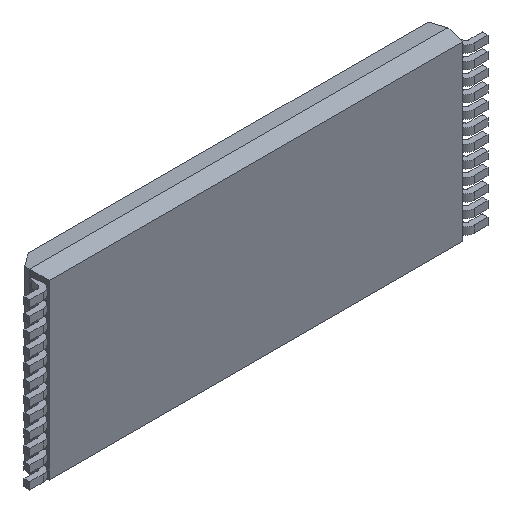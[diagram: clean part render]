
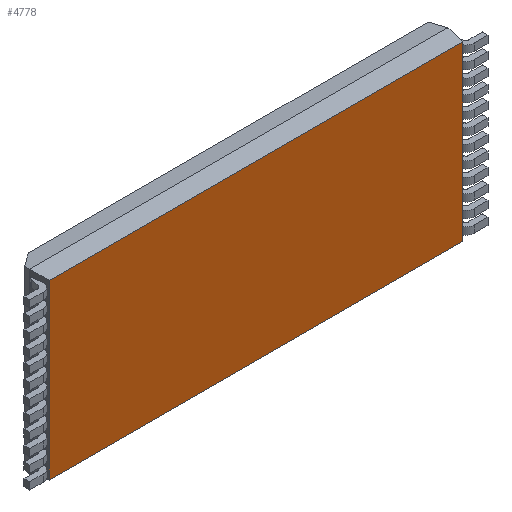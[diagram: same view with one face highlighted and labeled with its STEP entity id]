
A CAD part, isometric view. The second image highlights one B-rep face of the part: STEP entity #4778.
In plain terms, the highlighted planar face has unit normal (0, -1, 0).
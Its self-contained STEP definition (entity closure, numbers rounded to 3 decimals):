
#3483 = DIRECTION ( 'NONE',  ( 0., 0., 1. ) ) ;
#3484 = VECTOR ( 'NONE', #3483, 1000. ) ;
#3485 = CARTESIAN_POINT ( 'NONE',  ( -7.216, 0.1, -3.1 ) ) ;
#3486 = LINE ( 'NONE', #3485, #3484 ) ;
#3487 = CARTESIAN_POINT ( 'NONE',  ( -7.216, 0.1, 3.016 ) ) ;
#3488 = CARTESIAN_POINT ( 'NONE',  ( -7.216, 0.1, -3.016 ) ) ;
#4729 = VERTEX_POINT ( 'NONE', #7785 ) ;
#4730 = VERTEX_POINT ( 'NONE', #7784 ) ;
#4731 = EDGE_CURVE ( 'NONE', #4730, #4729, #7783, .T. ) ;
#4767 = EDGE_CURVE ( 'NONE', #4729, #7154, #7852, .T. ) ;
#4768 = ORIENTED_EDGE ( 'NONE', *, *, #4731, .F. ) ;
#4769 = ORIENTED_EDGE ( 'NONE', *, *, #4785, .F. ) ;
#4775 = EDGE_LOOP ( 'NONE', ( #4776, #4777, #4768, #4769 ) ) ;
#4776 = ORIENTED_EDGE ( 'NONE', *, *, #7157, .F. ) ;
#4777 = ORIENTED_EDGE ( 'NONE', *, *, #4767, .F. ) ;
#4778 = ADVANCED_FACE ( 'NONE', ( #7841 ), #7847, .F. ) ;
#4785 = EDGE_CURVE ( 'NONE', #7156, #4730, #7830, .T. ) ;
#7154 = VERTEX_POINT ( 'NONE', #3488 ) ;
#7156 = VERTEX_POINT ( 'NONE', #3487 ) ;
#7157 = EDGE_CURVE ( 'NONE', #7154, #7156, #3486, .T. ) ;
#7780 = DIRECTION ( 'NONE',  ( 0., 0., -1. ) ) ;
#7781 = VECTOR ( 'NONE', #7780, 1000. ) ;
#7782 = CARTESIAN_POINT ( 'NONE',  ( 7.216, 0.1, -3.1 ) ) ;
#7783 = LINE ( 'NONE', #7782, #7781 ) ;
#7784 = CARTESIAN_POINT ( 'NONE',  ( 7.216, 0.1, 3.016 ) ) ;
#7785 = CARTESIAN_POINT ( 'NONE',  ( 7.216, 0.1, -3.016 ) ) ;
#7827 = DIRECTION ( 'NONE',  ( 1., 0., 0. ) ) ;
#7828 = VECTOR ( 'NONE', #7827, 1000. ) ;
#7829 = CARTESIAN_POINT ( 'NONE',  ( -7.3, 0.1, 3.016 ) ) ;
#7830 = LINE ( 'NONE', #7829, #7828 ) ;
#7836 = DIRECTION ( 'NONE',  ( 0., 0., 1. ) ) ;
#7837 = DIRECTION ( 'NONE',  ( 0., 1., 0. ) ) ;
#7839 = CARTESIAN_POINT ( 'NONE',  ( -7.3, 0.1, -3.1 ) ) ;
#7840 = AXIS2_PLACEMENT_3D ( 'NONE', #7839, #7837, #7836 ) ;
#7841 = FACE_OUTER_BOUND ( 'NONE', #4775, .T. ) ;
#7847 = PLANE ( 'NONE',  #7840 ) ;
#7849 = DIRECTION ( 'NONE',  ( -1., 0., 0. ) ) ;
#7850 = VECTOR ( 'NONE', #7849, 1000. ) ;
#7851 = CARTESIAN_POINT ( 'NONE',  ( -7.3, 0.1, -3.016 ) ) ;
#7852 = LINE ( 'NONE', #7851, #7850 ) ;
